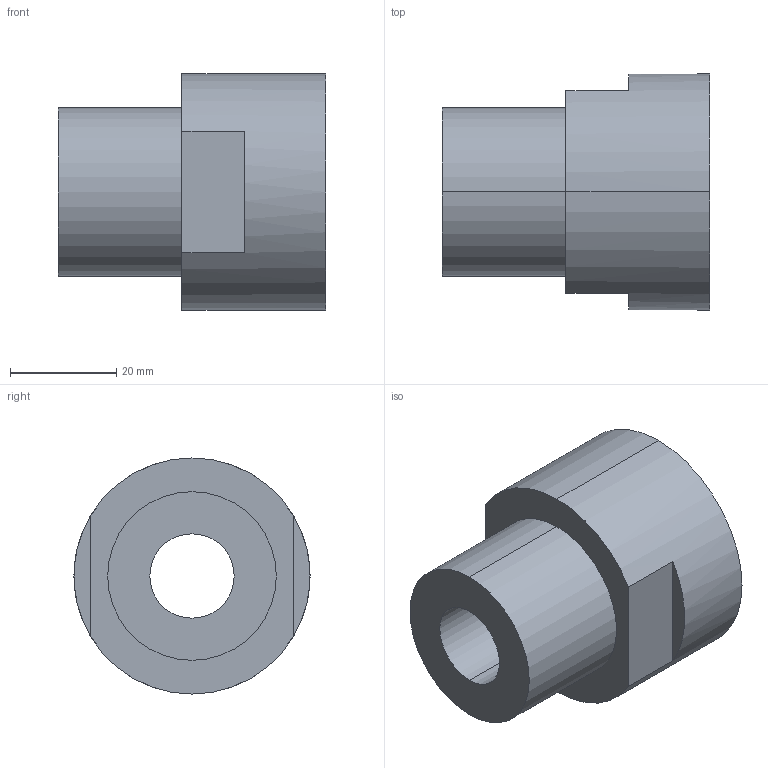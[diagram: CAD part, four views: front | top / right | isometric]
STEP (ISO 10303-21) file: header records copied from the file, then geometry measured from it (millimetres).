
FILE_DESCRIPTION (( 'STEP AP214' ), '1' );
FILE_NAME ('Fitting FNPT 16.STEP', '2012-09-26T20:16:07', ( '' ), ( '' ), 'SwSTEP 2.0', 'SolidWorks 2012', '' );
FILE_SCHEMA (( 'AUTOMOTIVE_DESIGN' ));
Length unit declared in the file: inch
Products named in the file (1): Fitting FNPT 16
Bounding box: 50.29 x 44.45 x 44.45 mm (x, y, z)
Volume: 40399.2 mm3; surface area: 12073.2 mm2
Topology: 1 solids, 1 shells, 16 faces, 36 edges, 24 vertices
Faces by surface type: cylinder 8, plane 8
Entity records: 543 total; most frequent: DIRECTION 90, CARTESIAN_POINT 77, ORIENTED_EDGE 72, AXIS2_PLACEMENT_3D 37, EDGE_CURVE 36, VERTEX_POINT 24, CIRCLE 20, EDGE_LOOP 20
